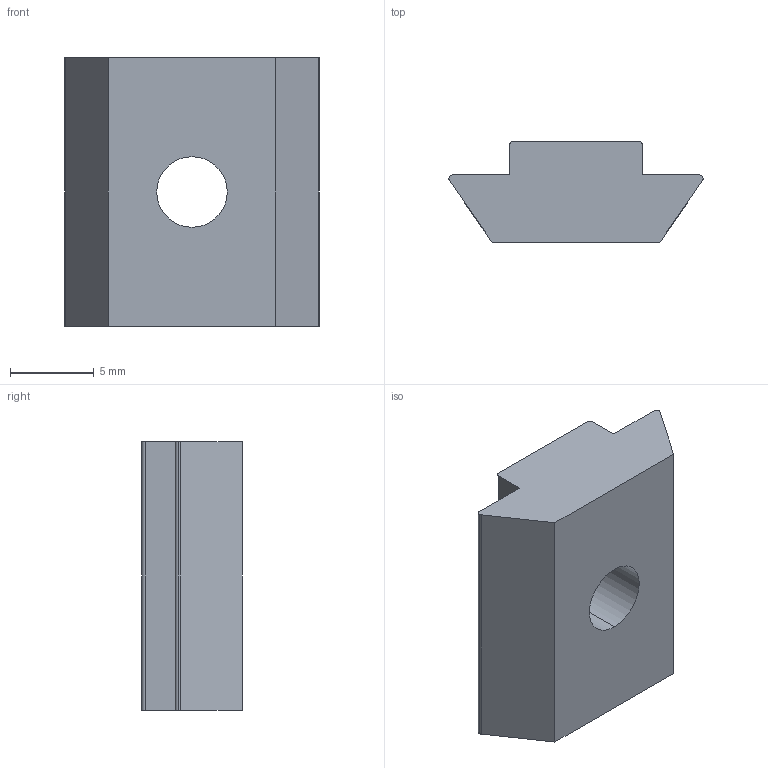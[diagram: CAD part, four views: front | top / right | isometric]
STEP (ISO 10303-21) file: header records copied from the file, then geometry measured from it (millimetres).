
FILE_DESCRIPTION (( 'STEP AP203' ), '1' );
FILE_NAME ('SLN5-83030.STEP', '2018-03-15T12:20:14', ( '' ), ( '' ), 'SwSTEP 2.0', 'SolidWorks 2013', '' );
FILE_SCHEMA (( 'CONFIG_CONTROL_DESIGN' ));
Length unit declared in the file: millimetre
Products named in the file (1): SLN5-83030
Bounding box: 15.14 x 6 x 16 mm (x, y, z)
Volume: 984.4 mm3; surface area: 799.1 mm2
Topology: 1 solids, 1 shells, 17 faces, 45 edges, 30 vertices
Faces by surface type: plane 10, cylinder 7
Entity records: 614 total; most frequent: DIRECTION 95, CARTESIAN_POINT 93, ORIENTED_EDGE 90, EDGE_CURVE 45, AXIS2_PLACEMENT_3D 32, LINE 31, VECTOR 31, VERTEX_POINT 30
